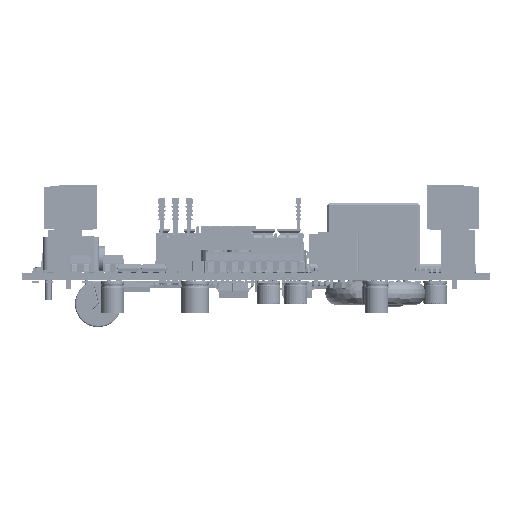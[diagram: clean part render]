
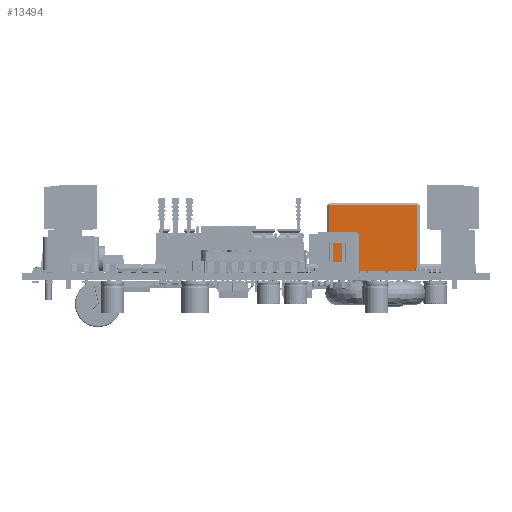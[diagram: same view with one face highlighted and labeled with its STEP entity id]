
A CAD part, left-side view. The second image highlights one B-rep face of the part: STEP entity #13494.
In plain terms, the highlighted planar face has unit normal (-1, 0, 0) as drawn and (0, 0, 1) by its records, which use the part's own axes.
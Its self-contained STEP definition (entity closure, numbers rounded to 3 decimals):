
#13352 = EDGE_CURVE('',#13353,#13355,#13357,.T.);
#13353 = VERTEX_POINT('',#13354);
#13354 = CARTESIAN_POINT('',(14.5,0.,2.));
#13355 = VERTEX_POINT('',#13356);
#13356 = CARTESIAN_POINT('',(-4.5,0.,2.));
#13357 = LINE('',#13358,#13359);
#13358 = CARTESIAN_POINT('',(-5.,0.,2.));
#13359 = VECTOR('',#13360,1.);
#13360 = DIRECTION('',(-1.,-0.,-0.));
#13494 = ADVANCED_FACE('',(#13495),#13520,.F.);
#13495 = FACE_BOUND('',#13496,.T.);
#13496 = EDGE_LOOP('',(#13497,#13505,#13513,#13519));
#13497 = ORIENTED_EDGE('',*,*,#13498,.F.);
#13498 = EDGE_CURVE('',#13499,#13353,#13501,.T.);
#13499 = VERTEX_POINT('',#13500);
#13500 = CARTESIAN_POINT('',(14.5,14.5,2.));
#13501 = LINE('',#13502,#13503);
#13502 = CARTESIAN_POINT('',(14.5,15.,2.));
#13503 = VECTOR('',#13504,1.);
#13504 = DIRECTION('',(-0.,-1.,-0.));
#13505 = ORIENTED_EDGE('',*,*,#13506,.F.);
#13506 = EDGE_CURVE('',#13507,#13499,#13509,.T.);
#13507 = VERTEX_POINT('',#13508);
#13508 = CARTESIAN_POINT('',(-4.5,14.5,2.));
#13509 = LINE('',#13510,#13511);
#13510 = CARTESIAN_POINT('',(-5.,14.5,2.));
#13511 = VECTOR('',#13512,1.);
#13512 = DIRECTION('',(1.,-0.,0.));
#13513 = ORIENTED_EDGE('',*,*,#13514,.F.);
#13514 = EDGE_CURVE('',#13355,#13507,#13515,.T.);
#13515 = LINE('',#13516,#13517);
#13516 = CARTESIAN_POINT('',(-4.5,15.,2.));
#13517 = VECTOR('',#13518,1.);
#13518 = DIRECTION('',(0.,1.,0.));
#13519 = ORIENTED_EDGE('',*,*,#13352,.F.);
#13520 = PLANE('',#13521);
#13521 = AXIS2_PLACEMENT_3D('',#13522,#13523,#13524);
#13522 = CARTESIAN_POINT('',(-5.,15.,2.));
#13523 = DIRECTION('',(0.,0.,-1.));
#13524 = DIRECTION('',(-1.,0.,-0.));
